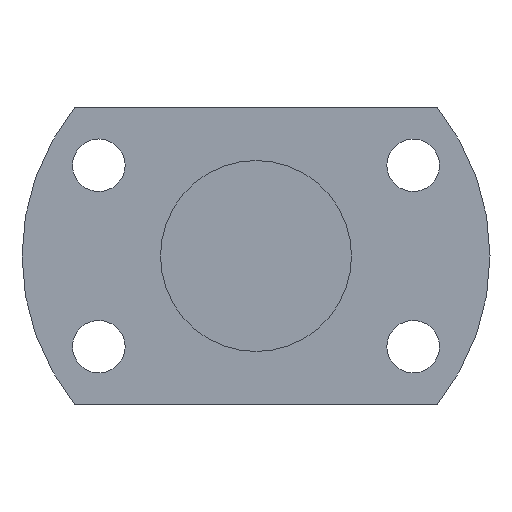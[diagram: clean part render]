
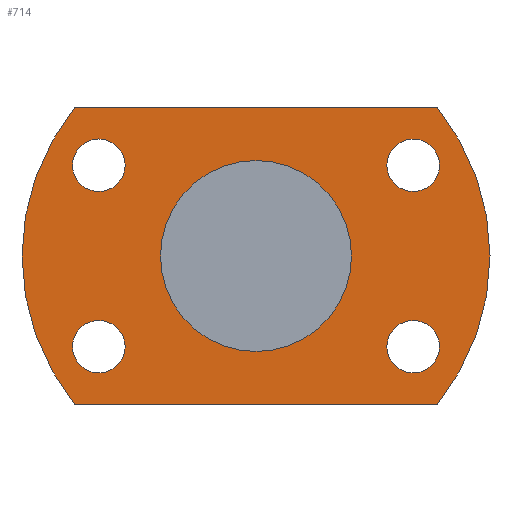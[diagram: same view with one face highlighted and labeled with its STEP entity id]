
A CAD part, left-side view. The second image highlights one B-rep face of the part: STEP entity #714.
In plain terms, the highlighted planar face has unit normal (-1, 0, 0).
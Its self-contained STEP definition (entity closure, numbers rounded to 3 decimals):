
#230=CARTESIAN_POINT('',(115.0,32.909,-13.5));
#231=VERTEX_POINT('',#230);
#232=CARTESIAN_POINT('',(115.0,32.909,-19.));
#233=DIRECTION('',(1.0,0.0,0.0));
#234=DIRECTION('',(0.0,0.0,1.0));
#235=AXIS2_PLACEMENT_3D('',#232,#233,#234);
#236=CIRCLE('',#235,5.5);
#237=EDGE_CURVE('',#231,#231,#236,.T.);
#279=CARTESIAN_POINT('',(115.0,-32.909,24.5));
#280=VERTEX_POINT('',#279);
#281=CARTESIAN_POINT('',(115.0,-32.909,19.));
#282=DIRECTION('',(1.0,0.0,0.0));
#283=DIRECTION('',(0.0,0.0,1.0));
#284=AXIS2_PLACEMENT_3D('',#281,#282,#283);
#285=CIRCLE('',#284,5.5);
#286=EDGE_CURVE('',#280,#280,#285,.T.);
#328=CARTESIAN_POINT('',(115.0,-32.909,-13.5));
#329=VERTEX_POINT('',#328);
#330=CARTESIAN_POINT('',(115.0,-32.909,-19.));
#331=DIRECTION('',(1.0,0.0,0.0));
#332=DIRECTION('',(0.0,0.0,1.0));
#333=AXIS2_PLACEMENT_3D('',#330,#331,#332);
#334=CIRCLE('',#333,5.5);
#335=EDGE_CURVE('',#329,#329,#334,.T.);
#377=CARTESIAN_POINT('',(115.0,32.909,24.5));
#378=VERTEX_POINT('',#377);
#379=CARTESIAN_POINT('',(115.0,32.909,19.));
#380=DIRECTION('',(1.0,0.0,0.0));
#381=DIRECTION('',(0.0,0.0,1.0));
#382=AXIS2_PLACEMENT_3D('',#379,#380,#381);
#383=CIRCLE('',#382,5.5);
#384=EDGE_CURVE('',#378,#378,#383,.T.);
#548=CARTESIAN_POINT('',(115.0,-37.947,-31.0));
#549=VERTEX_POINT('',#548);
#556=CARTESIAN_POINT('',(115.0,37.947,-31.0));
#557=VERTEX_POINT('',#556);
#558=CARTESIAN_POINT('',(115.0,37.947,-31.0));
#559=DIRECTION('',(0.0,-1.0,0.0));
#560=VECTOR('',#559,75.895);
#561=LINE('',#558,#560);
#562=EDGE_CURVE('',#557,#549,#561,.T.);
#579=CARTESIAN_POINT('',(115.0,-37.947,31.0));
#580=VERTEX_POINT('',#579);
#587=CARTESIAN_POINT('',(115.0,0.0,0.0));
#588=DIRECTION('',(-1.0,0.0,0.0));
#589=DIRECTION('',(0.0,0.0,1.0));
#590=AXIS2_PLACEMENT_3D('',#587,#588,#589);
#591=CIRCLE('',#590,49.0);
#592=EDGE_CURVE('',#549,#580,#591,.T.);
#604=CARTESIAN_POINT('',(115.0,37.947,31.0));
#605=VERTEX_POINT('',#604);
#612=CARTESIAN_POINT('',(115.0,-37.947,31.0));
#613=DIRECTION('',(0.0,1.0,0.0));
#614=VECTOR('',#613,75.895);
#615=LINE('',#612,#614);
#616=EDGE_CURVE('',#580,#605,#615,.T.);
#629=CARTESIAN_POINT('',(115.0,0.0,0.0));
#630=DIRECTION('',(-1.0,0.0,0.0));
#631=DIRECTION('',(0.0,0.0,1.0));
#632=AXIS2_PLACEMENT_3D('',#629,#630,#631);
#633=CIRCLE('',#632,49.0);
#634=EDGE_CURVE('',#605,#557,#633,.T.);
#680=CARTESIAN_POINT('',(115.0,0.0,24.5));
#681=DIRECTION('',(-1.0,0.0,0.0));
#682=DIRECTION('',(0.0,0.0,1.0));
#683=AXIS2_PLACEMENT_3D('',#680,#681,#682);
#684=PLANE('',#683);
#685=ORIENTED_EDGE('',*,*,#634,.T.);
#686=ORIENTED_EDGE('',*,*,#562,.T.);
#687=ORIENTED_EDGE('',*,*,#592,.T.);
#688=ORIENTED_EDGE('',*,*,#616,.T.);
#689=EDGE_LOOP('',(#685,#686,#687,#688));
#690=FACE_OUTER_BOUND('',#689,.T.);
#691=ORIENTED_EDGE('',*,*,#237,.T.);
#692=EDGE_LOOP('',(#691));
#693=FACE_BOUND('',#692,.T.);
#694=ORIENTED_EDGE('',*,*,#286,.T.);
#695=EDGE_LOOP('',(#694));
#696=FACE_BOUND('',#695,.T.);
#697=ORIENTED_EDGE('',*,*,#335,.T.);
#698=EDGE_LOOP('',(#697));
#699=FACE_BOUND('',#698,.T.);
#700=ORIENTED_EDGE('',*,*,#384,.T.);
#701=EDGE_LOOP('',(#700));
#702=FACE_BOUND('',#701,.T.);
#703=CARTESIAN_POINT('',(115.0,0.0,20.));
#704=VERTEX_POINT('',#703);
#705=CARTESIAN_POINT('',(115.0,0.0,0.0));
#706=DIRECTION('',(-1.0,0.0,0.0));
#707=DIRECTION('',(0.0,0.0,1.0));
#708=AXIS2_PLACEMENT_3D('',#705,#706,#707);
#709=CIRCLE('',#708,20.);
#710=EDGE_CURVE('',#704,#704,#709,.T.);
#711=ORIENTED_EDGE('',*,*,#710,.F.);
#712=EDGE_LOOP('',(#711));
#713=FACE_BOUND('',#712,.T.);
#714=ADVANCED_FACE('',(#690,#693,#696,#699,#702,#713),#684,.T.);
